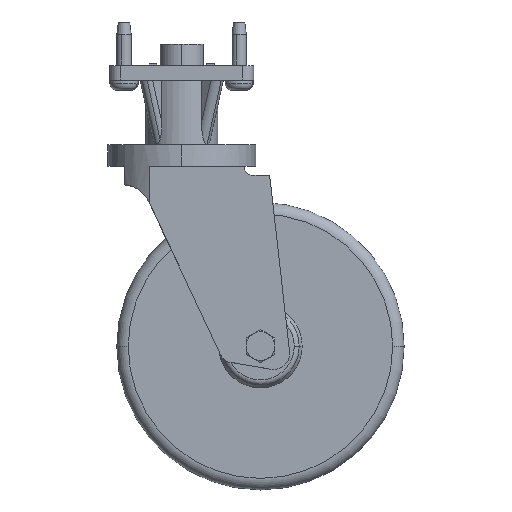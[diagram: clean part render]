
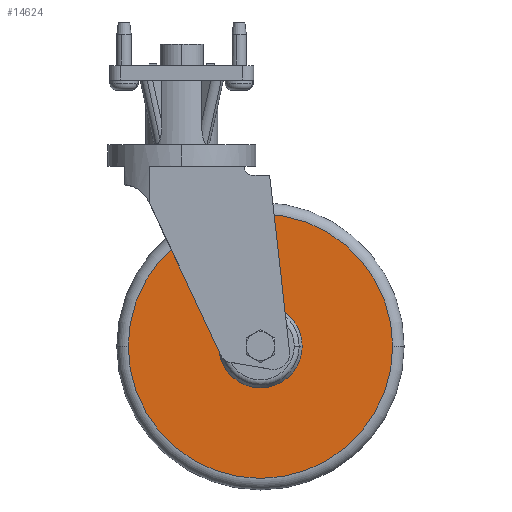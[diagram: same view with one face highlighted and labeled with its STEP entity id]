
A CAD part, top view. The second image highlights one B-rep face of the part: STEP entity #14624.
In plain terms, the highlighted planar face has unit normal (0, 0, 1).
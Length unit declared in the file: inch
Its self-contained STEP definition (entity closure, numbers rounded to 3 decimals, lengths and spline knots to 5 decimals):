
#523 = FACE_OUTER_BOUND ( 'NONE', #15296, .T. ) ;
#797 = EDGE_CURVE ( 'NONE', #11518, #12031, #10623, .T. ) ;
#2126 = CARTESIAN_POINT ( 'NONE',  ( 0., 0., 1.28 ) ) ;
#2358 = CARTESIAN_POINT ( 'NONE',  ( 0.72583, 0., 1.28 ) ) ;
#2466 = CARTESIAN_POINT ( 'NONE',  ( 0., 0., 1.28 ) ) ;
#2658 = ORIENTED_EDGE ( 'NONE', *, *, #5507, .T. ) ;
#3330 = EDGE_CURVE ( 'NONE', #9746, #9451, #11296, .T. ) ;
#3583 = AXIS2_PLACEMENT_3D ( 'NONE', #2466, #7918, #13360 ) ;
#4284 = DIRECTION ( 'NONE',  ( 1., 0., 0. ) ) ;
#4616 = DIRECTION ( 'NONE',  ( 0., 0., 1. ) ) ;
#5507 = EDGE_CURVE ( 'NONE', #9451, #9746, #15288, .T. ) ;
#5706 = CARTESIAN_POINT ( 'NONE',  ( -2.3, 0., 1.28 ) ) ;
#5923 = CARTESIAN_POINT ( 'NONE',  ( 0., 0., 1.28 ) ) ;
#5989 = FACE_BOUND ( 'NONE', #11040, .T. ) ;
#6580 = ORIENTED_EDGE ( 'NONE', *, *, #797, .F. ) ;
#7589 = DIRECTION ( 'NONE',  ( 0., 0., 1. ) ) ;
#7627 = AXIS2_PLACEMENT_3D ( 'NONE', #2126, #7589, #13035 ) ;
#7918 = DIRECTION ( 'NONE',  ( 0., 0., 1. ) ) ;
#9451 = VERTEX_POINT ( 'NONE', #5706 ) ;
#9746 = VERTEX_POINT ( 'NONE', #14578 ) ;
#9830 = AXIS2_PLACEMENT_3D ( 'NONE', #5923, #11350, #16740 ) ;
#10033 = AXIS2_PLACEMENT_3D ( 'NONE', #11075, #16471, #4284 ) ;
#10066 = DIRECTION ( 'NONE',  ( 1., 0., 0. ) ) ;
#10623 = CIRCLE ( 'NONE', #10033, 0.72583 ) ;
#11040 = EDGE_LOOP ( 'NONE', ( #6580, #11311 ) ) ;
#11075 = CARTESIAN_POINT ( 'NONE',  ( 0., 0., 1.28 ) ) ;
#11296 = CIRCLE ( 'NONE', #3583, 2.3 ) ;
#11311 = ORIENTED_EDGE ( 'NONE', *, *, #17185, .F. ) ;
#11350 = DIRECTION ( 'NONE',  ( 0., 0., 1. ) ) ;
#11404 = PLANE ( 'NONE',  #13259 ) ;
#11518 = VERTEX_POINT ( 'NONE', #2358 ) ;
#11991 = ORIENTED_EDGE ( 'NONE', *, *, #3330, .T. ) ;
#12031 = VERTEX_POINT ( 'NONE', #12251 ) ;
#12251 = CARTESIAN_POINT ( 'NONE',  ( -0.72583, 0., 1.28 ) ) ;
#13035 = DIRECTION ( 'NONE',  ( 1., 0., 0. ) ) ;
#13259 = AXIS2_PLACEMENT_3D ( 'NONE', #16792, #4616, #10066 ) ;
#13360 = DIRECTION ( 'NONE',  ( 1., 0., 0. ) ) ;
#14578 = CARTESIAN_POINT ( 'NONE',  ( 2.3, 0., 1.28 ) ) ;
#14624 = ADVANCED_FACE ( 'NONE', ( #523, #5989 ), #11404, .T. ) ;
#15288 = CIRCLE ( 'NONE', #7627, 2.3 ) ;
#15296 = EDGE_LOOP ( 'NONE', ( #11991, #2658 ) ) ;
#16471 = DIRECTION ( 'NONE',  ( 0., 0., 1. ) ) ;
#16740 = DIRECTION ( 'NONE',  ( 1., 0., 0. ) ) ;
#16792 = CARTESIAN_POINT ( 'NONE',  ( 0., 0., 1.28 ) ) ;
#17185 = EDGE_CURVE ( 'NONE', #12031, #11518, #17476, .T. ) ;
#17476 = CIRCLE ( 'NONE', #9830, 0.72583 ) ;
